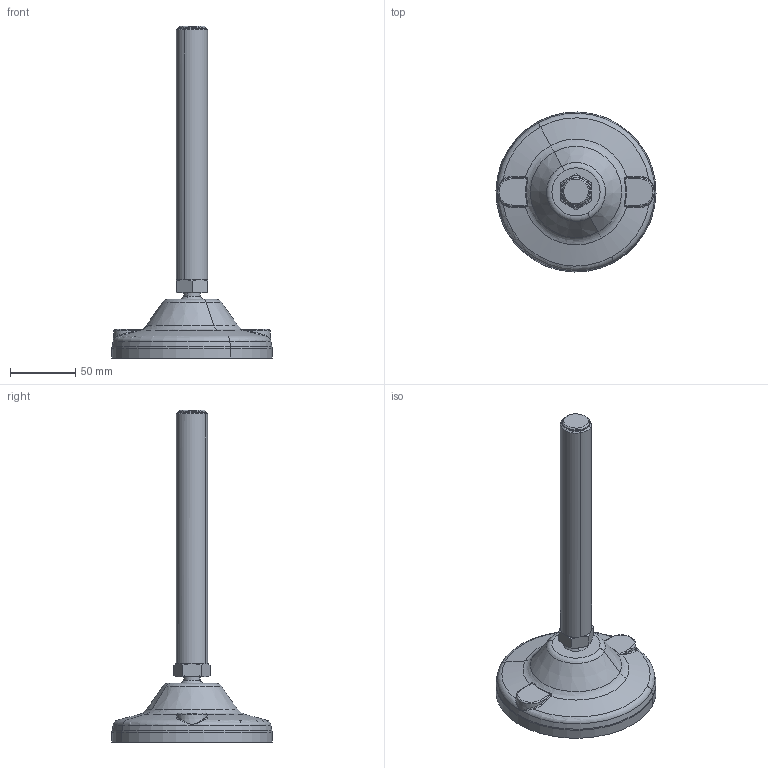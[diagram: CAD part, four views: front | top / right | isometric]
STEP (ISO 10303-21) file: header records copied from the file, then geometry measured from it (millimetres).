
FILE_DESCRIPTION(('CATIA V5 STEP Exchange'),'2;1');
FILE_NAME('C:\Users\dentellad\Desktop\95003H_01.stp','2017-05-04T12:34:46+00:00',('none'),('none'),'Version 5-6 Release 2012','CATIA V5 STEP AP203','none');
FILE_SCHEMA(('CONFIG_CONTROL_DESIGN'));
Length unit declared in the file: millimetre
Products named in the file (1): Product1
Assembly tree (2 placements, depth 2):
  Product1
    #58
    #42596
Bounding box: 122.97 x 122.97 x 255 mm (x, y, z)
Volume: 231525.5 mm3; surface area: 80137.9 mm2
Topology: 2 solids, 2 shells, 1072 faces, 2805 edges, 1745 vertices
Faces by surface type: plane 494, bspline 214, torus 158, cylinder 112, cone 74, sphere 20
Entity records: 43739 total; most frequent: CARTESIAN_POINT 22185, ORIENTED_EDGE 5598, EDGE_CURVE 2799, DIRECTION 2537, VERTEX_POINT 1745, B_SPLINE_CURVE_WITH_KNOTS 1622, AXIS2_PLACEMENT_3D 1256, EDGE_LOOP 1088
